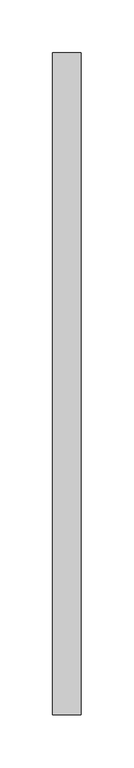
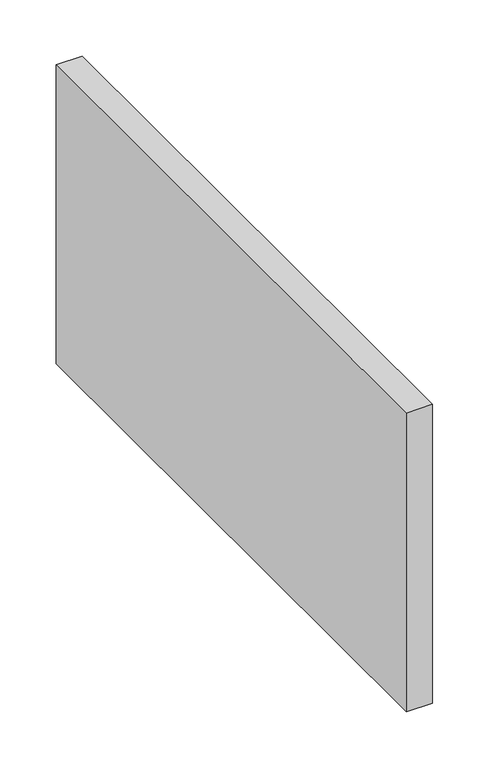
"""IFC4 building model written with IfcOpenShell, lengths in millimetres: duct fitting geometry, MEP_15.03 Injerto Conducte : Mínimo."""

from ifc_helpers import new_model, si_unit, frame, origin, place, context, project, spatial, polyline, outline, extrude, source, transform, mapped, element, save


def duct_fitting_e22b8d31(model_context):
    return source(origin(), model_context, "Body", "SweptSolid", [
        extrude(outline(polyline([(-9.0169739, -312.5), (-9.0169739, 312.5), (17.9209739, 312.5), (17.9209739, -312.5), (-9.0169739, -312.5)])), frame((0.0, 0.0, -162.5), z_axis=(0.0, 0.0, 1.0), x_axis=(1.0, 0.0, 0.0)), (0.0, 0.0, 1.0), 325.0),
    ])


if __name__ == "__main__":
    model = new_model("IFC4")
    model_context = context("Model", 3, world=origin())
    ifc_project = project(units=[si_unit("LENGTHUNIT", "METRE", prefix="MILLI")], contexts=[model_context])
    site = spatial("IfcSite", under=ifc_project)
    building = spatial("IfcBuilding", under=site)
    placement = place(None, origin())
    duct_fitting_shape = duct_fitting_e22b8d31(model_context)
    element("IfcDuctFitting", 1, ObjectType="MEP_15.03 Injerto Conducte : Mínimo", at=placement, inside=building, context=model_context, shape_type="MappedRepresentation", body=[
        mapped(duct_fitting_shape, transform((0.0, 0.0, 0.0), x_axis=(1.0, 0.0, 0.0), y_axis=(0.0, 1.0, 0.0), z_axis=(0.0, 0.0, 1.0))),
    ])
    save(model, "model.ifc")
